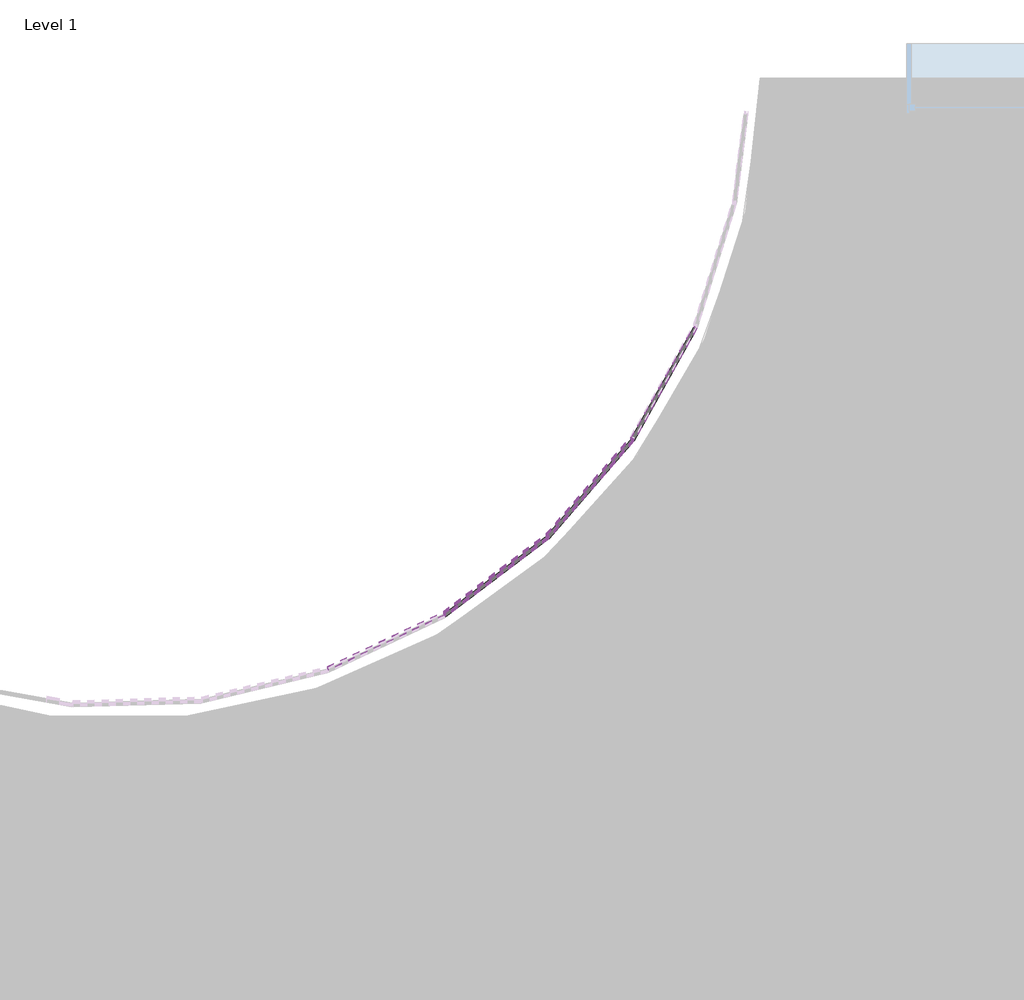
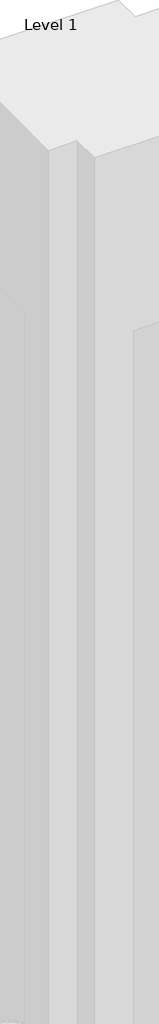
# One storey, part 19 of 20: 123 plates.
"""IFC4 building model written with IfcOpenShell, lengths in millimetres."""

from ifc_helpers import new_model, si_unit, origin, place, context, project, spatial, transform, mapped, element, save
from components import system_panel_glazed_d77d1ebf

model = new_model("IFC4")

# Units and contexts
model_context = context("Model", 3, world=origin())
ifc_project = project(units=[si_unit("LENGTHUNIT", "METRE", prefix="MILLI")], contexts=[model_context])

# Site, building, storey
site = spatial("IfcSite", under=ifc_project)
building = spatial("IfcBuilding", under=site)
storey = spatial("IfcBuildingStorey", under=building, Name="Level 1", Elevation=0.0)

# Plates
placement = place(None, origin())
system_panel_glazed_shape = system_panel_glazed_d77d1ebf(model_context)
element("IfcPlate", 1, ObjectType="System Panel : Glazed", at=placement, inside=storey, context=model_context, shape_type="MappedRepresentation", body=[
    mapped(system_panel_glazed_shape, transform((6187.9476398, 5523.679559, 0.0), x_axis=(0.7973536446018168, 0.6035123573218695, 0.0), y_axis=(-0.6035123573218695, 0.7973536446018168, 0.0), z_axis=(0.0, 0.0, 1.0))),
])
element("IfcPlate", 2, ObjectType="System Panel : Glazed", at=placement, inside=storey, context=model_context, shape_type="MappedRepresentation", body=[
    mapped(system_panel_glazed_shape, transform((6852.9242758, 6144.243956, 0.0), x_axis=(0.6571009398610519, 0.7538025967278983, 0.0), y_axis=(-0.7538025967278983, 0.6571009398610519, 0.0), z_axis=(0.0, 0.0, 1.0))),
])
element("IfcPlate", 3, ObjectType="System Panel : Glazed", at=placement, inside=storey, context=model_context, shape_type="MappedRepresentation", body=[
    mapped(system_panel_glazed_shape, transform((7376.9584203, 6887.6700201, 0.0), x_axis=(0.4890804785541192, 0.8722386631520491, 0.0), y_axis=(-0.8722386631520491, 0.4890804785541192, 0.0), z_axis=(0.0, 0.0, 1.0))),
])
element("IfcPlate", 4, ObjectType="System Panel : Glazed", at=placement, inside=storey, context=model_context, shape_type="MappedRepresentation", body=[
    mapped(system_panel_glazed_shape, transform((6187.9476398, 5523.679559, 3048.0), x_axis=(0.7973536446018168, 0.6035123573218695, 0.0), y_axis=(-0.6035123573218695, 0.7973536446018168, 0.0), z_axis=(0.0, 0.0, 1.0))),
])
element("IfcPlate", 5, ObjectType="System Panel : Glazed", at=placement, inside=storey, context=model_context, shape_type="MappedRepresentation", body=[
    mapped(system_panel_glazed_shape, transform((6852.9242758, 6144.243956, 3048.0), x_axis=(0.6571009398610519, 0.7538025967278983, 0.0), y_axis=(-0.7538025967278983, 0.6571009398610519, 0.0), z_axis=(0.0, 0.0, 1.0))),
])
element("IfcPlate", 6, ObjectType="System Panel : Glazed", at=placement, inside=storey, context=model_context, shape_type="MappedRepresentation", body=[
    mapped(system_panel_glazed_shape, transform((7376.9584203, 6887.6700201, 3048.0), x_axis=(0.4890804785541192, 0.8722386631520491, 0.0), y_axis=(-0.8722386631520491, 0.4890804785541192, 0.0), z_axis=(0.0, 0.0, 1.0))),
])
element("IfcPlate", 7, ObjectType="System Panel : Glazed", at=placement, inside=storey, context=model_context, shape_type="MappedRepresentation", body=[
    mapped(system_panel_glazed_shape, transform((6187.9476398, 5523.679559, 6096.0), x_axis=(0.7973536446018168, 0.6035123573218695, 0.0), y_axis=(-0.6035123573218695, 0.7973536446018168, 0.0), z_axis=(0.0, 0.0, 1.0))),
])
element("IfcPlate", 8, ObjectType="System Panel : Glazed", at=placement, inside=storey, context=model_context, shape_type="MappedRepresentation", body=[
    mapped(system_panel_glazed_shape, transform((6852.9242758, 6144.243956, 6096.0), x_axis=(0.6571009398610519, 0.7538025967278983, 0.0), y_axis=(-0.7538025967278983, 0.6571009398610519, 0.0), z_axis=(0.0, 0.0, 1.0))),
])
element("IfcPlate", 9, ObjectType="System Panel : Glazed", at=placement, inside=storey, context=model_context, shape_type="MappedRepresentation", body=[
    mapped(system_panel_glazed_shape, transform((7376.9584203, 6887.6700201, 6096.0), x_axis=(0.4890804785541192, 0.8722386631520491, 0.0), y_axis=(-0.8722386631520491, 0.4890804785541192, 0.0), z_axis=(0.0, 0.0, 1.0))),
])
element("IfcPlate", 10, ObjectType="System Panel : Glazed", at=placement, inside=storey, context=model_context, shape_type="MappedRepresentation", body=[
    mapped(system_panel_glazed_shape, transform((6187.9476398, 5523.679559, 9144.0), x_axis=(0.7973536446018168, 0.6035123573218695, 0.0), y_axis=(-0.6035123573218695, 0.7973536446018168, 0.0), z_axis=(0.0, 0.0, 1.0))),
])
element("IfcPlate", 11, ObjectType="System Panel : Glazed", at=placement, inside=storey, context=model_context, shape_type="MappedRepresentation", body=[
    mapped(system_panel_glazed_shape, transform((6852.9242758, 6144.243956, 9144.0), x_axis=(0.6571009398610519, 0.7538025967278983, 0.0), y_axis=(-0.7538025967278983, 0.6571009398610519, 0.0), z_axis=(0.0, 0.0, 1.0))),
])
element("IfcPlate", 12, ObjectType="System Panel : Glazed", at=placement, inside=storey, context=model_context, shape_type="MappedRepresentation", body=[
    mapped(system_panel_glazed_shape, transform((7376.9584203, 6887.6700201, 9144.0), x_axis=(0.4890804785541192, 0.8722386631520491, 0.0), y_axis=(-0.8722386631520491, 0.4890804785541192, 0.0), z_axis=(0.0, 0.0, 1.0))),
])
element("IfcPlate", 13, ObjectType="System Panel : Glazed", at=placement, inside=storey, context=model_context, shape_type="MappedRepresentation", body=[
    mapped(system_panel_glazed_shape, transform((6187.9476398, 5523.679559, 12192.0), x_axis=(0.7973536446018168, 0.6035123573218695, 0.0), y_axis=(-0.6035123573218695, 0.7973536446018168, 0.0), z_axis=(0.0, 0.0, 1.0))),
])
element("IfcPlate", 14, ObjectType="System Panel : Glazed", at=placement, inside=storey, context=model_context, shape_type="MappedRepresentation", body=[
    mapped(system_panel_glazed_shape, transform((6852.9242758, 6144.243956, 12192.0), x_axis=(0.6571009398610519, 0.7538025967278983, 0.0), y_axis=(-0.7538025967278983, 0.6571009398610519, 0.0), z_axis=(0.0, 0.0, 1.0))),
])
element("IfcPlate", 15, ObjectType="System Panel : Glazed", at=placement, inside=storey, context=model_context, shape_type="MappedRepresentation", body=[
    mapped(system_panel_glazed_shape, transform((7376.9584203, 6887.6700201, 12192.0), x_axis=(0.4890804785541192, 0.8722386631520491, 0.0), y_axis=(-0.8722386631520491, 0.4890804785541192, 0.0), z_axis=(0.0, 0.0, 1.0))),
])
element("IfcPlate", 16, ObjectType="System Panel : Glazed", at=placement, inside=storey, context=model_context, shape_type="MappedRepresentation", body=[
    mapped(system_panel_glazed_shape, transform((6187.9476398, 5523.679559, 15240.0), x_axis=(0.7973536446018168, 0.6035123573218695, 0.0), y_axis=(-0.6035123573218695, 0.7973536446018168, 0.0), z_axis=(0.0, 0.0, 1.0))),
])
element("IfcPlate", 17, ObjectType="System Panel : Glazed", at=placement, inside=storey, context=model_context, shape_type="MappedRepresentation", body=[
    mapped(system_panel_glazed_shape, transform((6852.9242758, 6144.243956, 15240.0), x_axis=(0.6571009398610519, 0.7538025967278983, 0.0), y_axis=(-0.7538025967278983, 0.6571009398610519, 0.0), z_axis=(0.0, 0.0, 1.0))),
])
element("IfcPlate", 18, ObjectType="System Panel : Glazed", at=placement, inside=storey, context=model_context, shape_type="MappedRepresentation", body=[
    mapped(system_panel_glazed_shape, transform((7376.9584203, 6887.6700201, 15240.0), x_axis=(0.4890804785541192, 0.8722386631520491, 0.0), y_axis=(-0.8722386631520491, 0.4890804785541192, 0.0), z_axis=(0.0, 0.0, 1.0))),
])
element("IfcPlate", 19, ObjectType="System Panel : Glazed", at=placement, inside=storey, context=model_context, shape_type="MappedRepresentation", body=[
    mapped(system_panel_glazed_shape, transform((6187.9476398, 5523.679559, 18288.0), x_axis=(0.7973536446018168, 0.6035123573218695, 0.0), y_axis=(-0.6035123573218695, 0.7973536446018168, 0.0), z_axis=(0.0, 0.0, 1.0))),
])
element("IfcPlate", 20, ObjectType="System Panel : Glazed", at=placement, inside=storey, context=model_context, shape_type="MappedRepresentation", body=[
    mapped(system_panel_glazed_shape, transform((6852.9242758, 6144.243956, 18288.0), x_axis=(0.6571009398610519, 0.7538025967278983, 0.0), y_axis=(-0.7538025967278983, 0.6571009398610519, 0.0), z_axis=(0.0, 0.0, 1.0))),
])
element("IfcPlate", 21, ObjectType="System Panel : Glazed", at=placement, inside=storey, context=model_context, shape_type="MappedRepresentation", body=[
    mapped(system_panel_glazed_shape, transform((7376.9584203, 6887.6700201, 18288.0), x_axis=(0.48908047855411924, 0.8722386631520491, 0.0), y_axis=(-0.8722386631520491, 0.48908047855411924, 0.0), z_axis=(0.0, 0.0, 1.0))),
])
element("IfcPlate", 22, ObjectType="System Panel : Glazed", at=placement, inside=storey, context=model_context, shape_type="MappedRepresentation", body=[
    mapped(system_panel_glazed_shape, transform((6187.9476398, 5523.679559, 21336.0), x_axis=(0.7973536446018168, 0.6035123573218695, 0.0), y_axis=(-0.6035123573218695, 0.7973536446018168, 0.0), z_axis=(0.0, 0.0, 1.0))),
])
element("IfcPlate", 23, ObjectType="System Panel : Glazed", at=placement, inside=storey, context=model_context, shape_type="MappedRepresentation", body=[
    mapped(system_panel_glazed_shape, transform((6852.9242758, 6144.243956, 21336.0), x_axis=(0.6571009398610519, 0.7538025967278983, 0.0), y_axis=(-0.7538025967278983, 0.6571009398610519, 0.0), z_axis=(0.0, 0.0, 1.0))),
])
element("IfcPlate", 24, ObjectType="System Panel : Glazed", at=placement, inside=storey, context=model_context, shape_type="MappedRepresentation", body=[
    mapped(system_panel_glazed_shape, transform((7376.9584203, 6887.6700201, 21336.0), x_axis=(0.4890804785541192, 0.8722386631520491, 0.0), y_axis=(-0.8722386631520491, 0.4890804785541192, 0.0), z_axis=(0.0, 0.0, 1.0))),
])
element("IfcPlate", 25, ObjectType="System Panel : Glazed", at=placement, inside=storey, context=model_context, shape_type="MappedRepresentation", body=[
    mapped(system_panel_glazed_shape, transform((6187.9476398, 5523.679559, 24384.0), x_axis=(0.7973536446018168, 0.6035123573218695, 0.0), y_axis=(-0.6035123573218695, 0.7973536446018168, 0.0), z_axis=(0.0, 0.0, 1.0))),
])
element("IfcPlate", 26, ObjectType="System Panel : Glazed", at=placement, inside=storey, context=model_context, shape_type="MappedRepresentation", body=[
    mapped(system_panel_glazed_shape, transform((6852.9242758, 6144.243956, 24384.0), x_axis=(0.6571009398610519, 0.7538025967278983, 0.0), y_axis=(-0.7538025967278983, 0.6571009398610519, 0.0), z_axis=(0.0, 0.0, 1.0))),
])
element("IfcPlate", 27, ObjectType="System Panel : Glazed", at=placement, inside=storey, context=model_context, shape_type="MappedRepresentation", body=[
    mapped(system_panel_glazed_shape, transform((7376.9584203, 6887.6700201, 24384.0), x_axis=(0.4890804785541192, 0.8722386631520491, 0.0), y_axis=(-0.8722386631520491, 0.4890804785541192, 0.0), z_axis=(0.0, 0.0, 1.0))),
])
element("IfcPlate", 28, ObjectType="System Panel : Glazed", at=placement, inside=storey, context=model_context, shape_type="MappedRepresentation", body=[
    mapped(system_panel_glazed_shape, transform((6187.9476398, 5523.679559, 27432.0), x_axis=(0.7973536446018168, 0.6035123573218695, 0.0), y_axis=(-0.6035123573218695, 0.7973536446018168, 0.0), z_axis=(0.0, 0.0, 1.0))),
])
element("IfcPlate", 29, ObjectType="System Panel : Glazed", at=placement, inside=storey, context=model_context, shape_type="MappedRepresentation", body=[
    mapped(system_panel_glazed_shape, transform((6852.9242758, 6144.243956, 27432.0), x_axis=(0.6571009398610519, 0.7538025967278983, 0.0), y_axis=(-0.7538025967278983, 0.6571009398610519, 0.0), z_axis=(0.0, 0.0, 1.0))),
])
element("IfcPlate", 30, ObjectType="System Panel : Glazed", at=placement, inside=storey, context=model_context, shape_type="MappedRepresentation", body=[
    mapped(system_panel_glazed_shape, transform((7376.9584203, 6887.6700201, 27432.0), x_axis=(0.4890804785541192, 0.8722386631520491, 0.0), y_axis=(-0.8722386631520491, 0.4890804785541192, 0.0), z_axis=(0.0, 0.0, 1.0))),
])
element("IfcPlate", 31, ObjectType="System Panel : Glazed", at=placement, inside=storey, context=model_context, shape_type="MappedRepresentation", body=[
    mapped(system_panel_glazed_shape, transform((6187.9476398, 5523.679559, 30480.0), x_axis=(0.7973536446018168, 0.6035123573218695, 0.0), y_axis=(-0.6035123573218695, 0.7973536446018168, 0.0), z_axis=(0.0, 0.0, 1.0))),
])
element("IfcPlate", 32, ObjectType="System Panel : Glazed", at=placement, inside=storey, context=model_context, shape_type="MappedRepresentation", body=[
    mapped(system_panel_glazed_shape, transform((6852.9242758, 6144.243956, 30480.0), x_axis=(0.6571009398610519, 0.7538025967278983, 0.0), y_axis=(-0.7538025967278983, 0.6571009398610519, 0.0), z_axis=(0.0, 0.0, 1.0))),
])
element("IfcPlate", 33, ObjectType="System Panel : Glazed", at=placement, inside=storey, context=model_context, shape_type="MappedRepresentation", body=[
    mapped(system_panel_glazed_shape, transform((7376.9584203, 6887.6700201, 30480.0), x_axis=(0.4890804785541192, 0.8722386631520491, 0.0), y_axis=(-0.8722386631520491, 0.4890804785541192, 0.0), z_axis=(0.0, 0.0, 1.0))),
])
element("IfcPlate", 34, ObjectType="System Panel : Glazed", at=placement, inside=storey, context=model_context, shape_type="MappedRepresentation", body=[
    mapped(system_panel_glazed_shape, transform((6187.9476398, 5523.679559, 33528.0), x_axis=(0.7973536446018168, 0.6035123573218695, 0.0), y_axis=(-0.6035123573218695, 0.7973536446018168, 0.0), z_axis=(0.0, 0.0, 1.0))),
])
element("IfcPlate", 35, ObjectType="System Panel : Glazed", at=placement, inside=storey, context=model_context, shape_type="MappedRepresentation", body=[
    mapped(system_panel_glazed_shape, transform((6852.9242758, 6144.243956, 33528.0), x_axis=(0.6571009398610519, 0.7538025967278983, 0.0), y_axis=(-0.7538025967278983, 0.6571009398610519, 0.0), z_axis=(0.0, 0.0, 1.0))),
])
element("IfcPlate", 36, ObjectType="System Panel : Glazed", at=placement, inside=storey, context=model_context, shape_type="MappedRepresentation", body=[
    mapped(system_panel_glazed_shape, transform((7376.9584203, 6887.6700201, 33528.0), x_axis=(0.4890804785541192, 0.8722386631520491, 0.0), y_axis=(-0.8722386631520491, 0.4890804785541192, 0.0), z_axis=(0.0, 0.0, 1.0))),
])
element("IfcPlate", 37, ObjectType="System Panel : Glazed", at=placement, inside=storey, context=model_context, shape_type="MappedRepresentation", body=[
    mapped(system_panel_glazed_shape, transform((6187.9476398, 5523.679559, 36576.0), x_axis=(0.7973536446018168, 0.6035123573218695, 0.0), y_axis=(-0.6035123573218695, 0.7973536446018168, 0.0), z_axis=(0.0, 0.0, 1.0))),
])
element("IfcPlate", 38, ObjectType="System Panel : Glazed", at=placement, inside=storey, context=model_context, shape_type="MappedRepresentation", body=[
    mapped(system_panel_glazed_shape, transform((6852.9242758, 6144.243956, 36576.0), x_axis=(0.6571009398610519, 0.7538025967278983, 0.0), y_axis=(-0.7538025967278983, 0.6571009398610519, 0.0), z_axis=(0.0, 0.0, 1.0))),
])
element("IfcPlate", 39, ObjectType="System Panel : Glazed", at=placement, inside=storey, context=model_context, shape_type="MappedRepresentation", body=[
    mapped(system_panel_glazed_shape, transform((7376.9584203, 6887.6700201, 36576.0), x_axis=(0.4890804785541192, 0.8722386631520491, 0.0), y_axis=(-0.8722386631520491, 0.4890804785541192, 0.0), z_axis=(0.0, 0.0, 1.0))),
])
element("IfcPlate", 40, ObjectType="System Panel : Glazed", at=placement, inside=storey, context=model_context, shape_type="MappedRepresentation", body=[
    mapped(system_panel_glazed_shape, transform((6187.9476398, 5523.679559, 39624.0), x_axis=(0.7973536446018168, 0.6035123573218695, 0.0), y_axis=(-0.6035123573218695, 0.7973536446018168, 0.0), z_axis=(0.0, 0.0, 1.0))),
])
element("IfcPlate", 41, ObjectType="System Panel : Glazed", at=placement, inside=storey, context=model_context, shape_type="MappedRepresentation", body=[
    mapped(system_panel_glazed_shape, transform((6852.9242758, 6144.243956, 39624.0), x_axis=(0.6571009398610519, 0.7538025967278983, 0.0), y_axis=(-0.7538025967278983, 0.6571009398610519, 0.0), z_axis=(0.0, 0.0, 1.0))),
])
element("IfcPlate", 42, ObjectType="System Panel : Glazed", at=placement, inside=storey, context=model_context, shape_type="MappedRepresentation", body=[
    mapped(system_panel_glazed_shape, transform((7376.9584203, 6887.6700201, 39624.0), x_axis=(0.4890804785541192, 0.8722386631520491, 0.0), y_axis=(-0.8722386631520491, 0.4890804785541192, 0.0), z_axis=(0.0, 0.0, 1.0))),
])
element("IfcPlate", 43, ObjectType="System Panel : Glazed", at=placement, inside=storey, context=model_context, shape_type="MappedRepresentation", body=[
    mapped(system_panel_glazed_shape, transform((6187.9476398, 5523.679559, 42672.0), x_axis=(0.7973536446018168, 0.6035123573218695, 0.0), y_axis=(-0.6035123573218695, 0.7973536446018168, 0.0), z_axis=(0.0, 0.0, 1.0))),
])
element("IfcPlate", 44, ObjectType="System Panel : Glazed", at=placement, inside=storey, context=model_context, shape_type="MappedRepresentation", body=[
    mapped(system_panel_glazed_shape, transform((6852.9242758, 6144.243956, 42672.0), x_axis=(0.6571009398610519, 0.7538025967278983, 0.0), y_axis=(-0.7538025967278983, 0.6571009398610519, 0.0), z_axis=(0.0, 0.0, 1.0))),
])
element("IfcPlate", 45, ObjectType="System Panel : Glazed", at=placement, inside=storey, context=model_context, shape_type="MappedRepresentation", body=[
    mapped(system_panel_glazed_shape, transform((7376.9584203, 6887.6700201, 42672.0), x_axis=(0.4890804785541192, 0.8722386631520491, 0.0), y_axis=(-0.8722386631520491, 0.4890804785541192, 0.0), z_axis=(0.0, 0.0, 1.0))),
])
element("IfcPlate", 46, ObjectType="System Panel : Glazed", at=placement, inside=storey, context=model_context, shape_type="MappedRepresentation", body=[
    mapped(system_panel_glazed_shape, transform((6187.9476398, 5523.679559, 45720.0), x_axis=(0.7973536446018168, 0.6035123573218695, 0.0), y_axis=(-0.6035123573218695, 0.7973536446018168, 0.0), z_axis=(0.0, 0.0, 1.0))),
])
element("IfcPlate", 47, ObjectType="System Panel : Glazed", at=placement, inside=storey, context=model_context, shape_type="MappedRepresentation", body=[
    mapped(system_panel_glazed_shape, transform((6852.9242758, 6144.243956, 45720.0), x_axis=(0.6571009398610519, 0.7538025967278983, 0.0), y_axis=(-0.7538025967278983, 0.6571009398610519, 0.0), z_axis=(0.0, 0.0, 1.0))),
])
element("IfcPlate", 48, ObjectType="System Panel : Glazed", at=placement, inside=storey, context=model_context, shape_type="MappedRepresentation", body=[
    mapped(system_panel_glazed_shape, transform((7376.9584203, 6887.6700201, 45720.0), x_axis=(0.4890804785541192, 0.8722386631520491, 0.0), y_axis=(-0.8722386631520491, 0.4890804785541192, 0.0), z_axis=(0.0, 0.0, 1.0))),
])
element("IfcPlate", 49, ObjectType="System Panel : Glazed", at=placement, inside=storey, context=model_context, shape_type="MappedRepresentation", body=[
    mapped(system_panel_glazed_shape, transform((6187.9476398, 5523.679559, 48768.0), x_axis=(0.7973536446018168, 0.6035123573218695, 0.0), y_axis=(-0.6035123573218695, 0.7973536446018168, 0.0), z_axis=(0.0, 0.0, 1.0))),
])
element("IfcPlate", 50, ObjectType="System Panel : Glazed", at=placement, inside=storey, context=model_context, shape_type="MappedRepresentation", body=[
    mapped(system_panel_glazed_shape, transform((6852.9242758, 6144.243956, 48768.0), x_axis=(0.6571009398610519, 0.7538025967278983, 0.0), y_axis=(-0.7538025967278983, 0.6571009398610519, 0.0), z_axis=(0.0, 0.0, 1.0))),
])
element("IfcPlate", 51, ObjectType="System Panel : Glazed", at=placement, inside=storey, context=model_context, shape_type="MappedRepresentation", body=[
    mapped(system_panel_glazed_shape, transform((7376.9584203, 6887.6700201, 48768.0), x_axis=(0.4890804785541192, 0.8722386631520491, 0.0), y_axis=(-0.8722386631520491, 0.4890804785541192, 0.0), z_axis=(0.0, 0.0, 1.0))),
])
element("IfcPlate", 52, ObjectType="System Panel : Glazed", at=placement, inside=storey, context=model_context, shape_type="MappedRepresentation", body=[
    mapped(system_panel_glazed_shape, transform((6187.9476398, 5523.679559, 51816.0), x_axis=(0.7973536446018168, 0.6035123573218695, 0.0), y_axis=(-0.6035123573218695, 0.7973536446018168, 0.0), z_axis=(0.0, 0.0, 1.0))),
])
element("IfcPlate", 53, ObjectType="System Panel : Glazed", at=placement, inside=storey, context=model_context, shape_type="MappedRepresentation", body=[
    mapped(system_panel_glazed_shape, transform((6852.9242758, 6144.243956, 51816.0), x_axis=(0.6571009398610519, 0.7538025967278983, 0.0), y_axis=(-0.7538025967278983, 0.6571009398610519, 0.0), z_axis=(0.0, 0.0, 1.0))),
])
element("IfcPlate", 54, ObjectType="System Panel : Glazed", at=placement, inside=storey, context=model_context, shape_type="MappedRepresentation", body=[
    mapped(system_panel_glazed_shape, transform((7376.9584203, 6887.6700201, 51816.0), x_axis=(0.4890804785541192, 0.8722386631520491, 0.0), y_axis=(-0.8722386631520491, 0.4890804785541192, 0.0), z_axis=(0.0, 0.0, 1.0))),
])
element("IfcPlate", 55, ObjectType="System Panel : Glazed", at=placement, inside=storey, context=model_context, shape_type="MappedRepresentation", body=[
    mapped(system_panel_glazed_shape, transform((6187.9476398, 5523.679559, 54864.0), x_axis=(0.7973536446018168, 0.6035123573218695, 0.0), y_axis=(-0.6035123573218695, 0.7973536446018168, 0.0), z_axis=(0.0, 0.0, 1.0))),
])
element("IfcPlate", 56, ObjectType="System Panel : Glazed", at=placement, inside=storey, context=model_context, shape_type="MappedRepresentation", body=[
    mapped(system_panel_glazed_shape, transform((6852.9242758, 6144.243956, 54864.0), x_axis=(0.6571009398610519, 0.7538025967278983, 0.0), y_axis=(-0.7538025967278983, 0.6571009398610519, 0.0), z_axis=(0.0, 0.0, 1.0))),
])
element("IfcPlate", 57, ObjectType="System Panel : Glazed", at=placement, inside=storey, context=model_context, shape_type="MappedRepresentation", body=[
    mapped(system_panel_glazed_shape, transform((7376.9584203, 6887.6700201, 54864.0), x_axis=(0.4890804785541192, 0.8722386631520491, 0.0), y_axis=(-0.8722386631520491, 0.4890804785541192, 0.0), z_axis=(0.0, 0.0, 1.0))),
])
element("IfcPlate", 58, ObjectType="System Panel : Glazed", at=placement, inside=storey, context=model_context, shape_type="MappedRepresentation", body=[
    mapped(system_panel_glazed_shape, transform((6187.9476398, 5523.679559, 57912.0), x_axis=(0.7973536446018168, 0.6035123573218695, 0.0), y_axis=(-0.6035123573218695, 0.7973536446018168, 0.0), z_axis=(0.0, 0.0, 1.0))),
])
element("IfcPlate", 59, ObjectType="System Panel : Glazed", at=placement, inside=storey, context=model_context, shape_type="MappedRepresentation", body=[
    mapped(system_panel_glazed_shape, transform((6852.9242758, 6144.243956, 57912.0), x_axis=(0.6571009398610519, 0.7538025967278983, 0.0), y_axis=(-0.7538025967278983, 0.6571009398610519, 0.0), z_axis=(0.0, 0.0, 1.0))),
])
element("IfcPlate", 60, ObjectType="System Panel : Glazed", at=placement, inside=storey, context=model_context, shape_type="MappedRepresentation", body=[
    mapped(system_panel_glazed_shape, transform((7376.9584203, 6887.6700201, 57912.0), x_axis=(0.4890804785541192, 0.8722386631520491, 0.0), y_axis=(-0.8722386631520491, 0.4890804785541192, 0.0), z_axis=(0.0, 0.0, 1.0))),
])
element("IfcPlate", 61, ObjectType="System Panel : Glazed", at=placement, inside=storey, context=model_context, shape_type="MappedRepresentation", body=[
    mapped(system_panel_glazed_shape, transform((6187.9476398, 5523.679559, 60960.0), x_axis=(0.7973536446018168, 0.6035123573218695, 0.0), y_axis=(-0.6035123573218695, 0.7973536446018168, 0.0), z_axis=(0.0, 0.0, 1.0))),
])
element("IfcPlate", 62, ObjectType="System Panel : Glazed", at=placement, inside=storey, context=model_context, shape_type="MappedRepresentation", body=[
    mapped(system_panel_glazed_shape, transform((6852.9242758, 6144.243956, 60960.0), x_axis=(0.6571009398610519, 0.7538025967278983, 0.0), y_axis=(-0.7538025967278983, 0.6571009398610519, 0.0), z_axis=(0.0, 0.0, 1.0))),
])
element("IfcPlate", 63, ObjectType="System Panel : Glazed", at=placement, inside=storey, context=model_context, shape_type="MappedRepresentation", body=[
    mapped(system_panel_glazed_shape, transform((7376.9584203, 6887.6700201, 60960.0), x_axis=(0.4890804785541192, 0.8722386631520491, 0.0), y_axis=(-0.8722386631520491, 0.4890804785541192, 0.0), z_axis=(0.0, 0.0, 1.0))),
])
element("IfcPlate", 64, ObjectType="System Panel : Glazed", at=placement, inside=storey, context=model_context, shape_type="MappedRepresentation", body=[
    mapped(system_panel_glazed_shape, transform((6187.9476398, 5523.679559, 64008.0), x_axis=(0.7973536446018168, 0.6035123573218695, 0.0), y_axis=(-0.6035123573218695, 0.7973536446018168, 0.0), z_axis=(0.0, 0.0, 1.0))),
])
element("IfcPlate", 65, ObjectType="System Panel : Glazed", at=placement, inside=storey, context=model_context, shape_type="MappedRepresentation", body=[
    mapped(system_panel_glazed_shape, transform((6852.9242758, 6144.243956, 64008.0), x_axis=(0.6571009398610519, 0.7538025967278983, 0.0), y_axis=(-0.7538025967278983, 0.6571009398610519, 0.0), z_axis=(0.0, 0.0, 1.0))),
])
element("IfcPlate", 66, ObjectType="System Panel : Glazed", at=placement, inside=storey, context=model_context, shape_type="MappedRepresentation", body=[
    mapped(system_panel_glazed_shape, transform((7376.9584203, 6887.6700201, 64008.0), x_axis=(0.4890804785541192, 0.8722386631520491, 0.0), y_axis=(-0.8722386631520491, 0.4890804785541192, 0.0), z_axis=(0.0, 0.0, 1.0))),
])
element("IfcPlate", 67, ObjectType="System Panel : Glazed", at=placement, inside=storey, context=model_context, shape_type="MappedRepresentation", body=[
    mapped(system_panel_glazed_shape, transform((6187.9476398, 5523.679559, 67056.0), x_axis=(0.7973536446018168, 0.6035123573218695, 0.0), y_axis=(-0.6035123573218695, 0.7973536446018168, 0.0), z_axis=(0.0, 0.0, 1.0))),
])
element("IfcPlate", 68, ObjectType="System Panel : Glazed", at=placement, inside=storey, context=model_context, shape_type="MappedRepresentation", body=[
    mapped(system_panel_glazed_shape, transform((6852.9242758, 6144.243956, 67056.0), x_axis=(0.6571009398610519, 0.7538025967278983, 0.0), y_axis=(-0.7538025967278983, 0.6571009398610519, 0.0), z_axis=(0.0, 0.0, 1.0))),
])
element("IfcPlate", 69, ObjectType="System Panel : Glazed", at=placement, inside=storey, context=model_context, shape_type="MappedRepresentation", body=[
    mapped(system_panel_glazed_shape, transform((7376.9584203, 6887.6700201, 67056.0), x_axis=(0.4890804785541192, 0.8722386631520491, 0.0), y_axis=(-0.8722386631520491, 0.4890804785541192, 0.0), z_axis=(0.0, 0.0, 1.0))),
])
element("IfcPlate", 70, ObjectType="System Panel : Glazed", at=placement, inside=storey, context=model_context, shape_type="MappedRepresentation", body=[
    mapped(system_panel_glazed_shape, transform((6187.9476398, 5523.679559, 70104.0), x_axis=(0.7973536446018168, 0.6035123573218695, 0.0), y_axis=(-0.6035123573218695, 0.7973536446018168, 0.0), z_axis=(0.0, 0.0, 1.0))),
])
element("IfcPlate", 71, ObjectType="System Panel : Glazed", at=placement, inside=storey, context=model_context, shape_type="MappedRepresentation", body=[
    mapped(system_panel_glazed_shape, transform((6852.9242758, 6144.243956, 70104.0), x_axis=(0.6571009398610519, 0.7538025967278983, 0.0), y_axis=(-0.7538025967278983, 0.6571009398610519, 0.0), z_axis=(0.0, 0.0, 1.0))),
])
element("IfcPlate", 72, ObjectType="System Panel : Glazed", at=placement, inside=storey, context=model_context, shape_type="MappedRepresentation", body=[
    mapped(system_panel_glazed_shape, transform((7376.9584203, 6887.6700201, 70104.0), x_axis=(0.4890804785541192, 0.8722386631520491, 0.0), y_axis=(-0.8722386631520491, 0.4890804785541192, 0.0), z_axis=(0.0, 0.0, 1.0))),
])
element("IfcPlate", 73, ObjectType="System Panel : Glazed", at=placement, inside=storey, context=model_context, shape_type="MappedRepresentation", body=[
    mapped(system_panel_glazed_shape, transform((6187.9476398, 5523.679559, 73152.0), x_axis=(0.7973536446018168, 0.6035123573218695, 0.0), y_axis=(-0.6035123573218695, 0.7973536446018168, 0.0), z_axis=(0.0, 0.0, 1.0))),
])
element("IfcPlate", 74, ObjectType="System Panel : Glazed", at=placement, inside=storey, context=model_context, shape_type="MappedRepresentation", body=[
    mapped(system_panel_glazed_shape, transform((6852.9242758, 6144.243956, 73152.0), x_axis=(0.6571009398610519, 0.7538025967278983, 0.0), y_axis=(-0.7538025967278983, 0.6571009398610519, 0.0), z_axis=(0.0, 0.0, 1.0))),
])
element("IfcPlate", 75, ObjectType="System Panel : Glazed", at=placement, inside=storey, context=model_context, shape_type="MappedRepresentation", body=[
    mapped(system_panel_glazed_shape, transform((7376.9584203, 6887.6700201, 73152.0), x_axis=(0.4890804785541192, 0.8722386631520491, 0.0), y_axis=(-0.8722386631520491, 0.4890804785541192, 0.0), z_axis=(0.0, 0.0, 1.0))),
])
element("IfcPlate", 76, ObjectType="System Panel : Glazed", at=placement, inside=storey, context=model_context, shape_type="MappedRepresentation", body=[
    mapped(system_panel_glazed_shape, transform((6187.9476398, 5523.679559, 76200.0), x_axis=(0.7973536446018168, 0.6035123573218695, 0.0), y_axis=(-0.6035123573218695, 0.7973536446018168, 0.0), z_axis=(0.0, 0.0, 1.0))),
])
element("IfcPlate", 77, ObjectType="System Panel : Glazed", at=placement, inside=storey, context=model_context, shape_type="MappedRepresentation", body=[
    mapped(system_panel_glazed_shape, transform((6852.9242758, 6144.243956, 76200.0), x_axis=(0.6571009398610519, 0.7538025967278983, 0.0), y_axis=(-0.7538025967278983, 0.6571009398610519, 0.0), z_axis=(0.0, 0.0, 1.0))),
])
element("IfcPlate", 78, ObjectType="System Panel : Glazed", at=placement, inside=storey, context=model_context, shape_type="MappedRepresentation", body=[
    mapped(system_panel_glazed_shape, transform((7376.9584203, 6887.6700201, 76200.0), x_axis=(0.4890804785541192, 0.8722386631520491, 0.0), y_axis=(-0.8722386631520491, 0.4890804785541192, 0.0), z_axis=(0.0, 0.0, 1.0))),
])
element("IfcPlate", 79, ObjectType="System Panel : Glazed", at=placement, inside=storey, context=model_context, shape_type="MappedRepresentation", body=[
    mapped(system_panel_glazed_shape, transform((6187.9476398, 5523.679559, 79248.0), x_axis=(0.7973536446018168, 0.6035123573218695, 0.0), y_axis=(-0.6035123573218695, 0.7973536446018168, 0.0), z_axis=(0.0, 0.0, 1.0))),
])
element("IfcPlate", 80, ObjectType="System Panel : Glazed", at=placement, inside=storey, context=model_context, shape_type="MappedRepresentation", body=[
    mapped(system_panel_glazed_shape, transform((6852.9242758, 6144.243956, 79248.0), x_axis=(0.6571009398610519, 0.7538025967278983, 0.0), y_axis=(-0.7538025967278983, 0.6571009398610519, 0.0), z_axis=(0.0, 0.0, 1.0))),
])
element("IfcPlate", 81, ObjectType="System Panel : Glazed", at=placement, inside=storey, context=model_context, shape_type="MappedRepresentation", body=[
    mapped(system_panel_glazed_shape, transform((7376.9584203, 6887.6700201, 79248.0), x_axis=(0.4890804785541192, 0.8722386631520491, 0.0), y_axis=(-0.8722386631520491, 0.4890804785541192, 0.0), z_axis=(0.0, 0.0, 1.0))),
])
element("IfcPlate", 82, ObjectType="System Panel : Glazed", at=placement, inside=storey, context=model_context, shape_type="MappedRepresentation", body=[
    mapped(system_panel_glazed_shape, transform((6187.9476398, 5523.679559, 82296.0), x_axis=(0.7973536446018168, 0.6035123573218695, 0.0), y_axis=(-0.6035123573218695, 0.7973536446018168, 0.0), z_axis=(0.0, 0.0, 1.0))),
])
element("IfcPlate", 83, ObjectType="System Panel : Glazed", at=placement, inside=storey, context=model_context, shape_type="MappedRepresentation", body=[
    mapped(system_panel_glazed_shape, transform((6852.9242758, 6144.243956, 82296.0), x_axis=(0.6571009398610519, 0.7538025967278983, 0.0), y_axis=(-0.7538025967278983, 0.6571009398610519, 0.0), z_axis=(0.0, 0.0, 1.0))),
])
element("IfcPlate", 84, ObjectType="System Panel : Glazed", at=placement, inside=storey, context=model_context, shape_type="MappedRepresentation", body=[
    mapped(system_panel_glazed_shape, transform((7376.9584203, 6887.6700201, 82296.0), x_axis=(0.4890804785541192, 0.8722386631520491, 0.0), y_axis=(-0.8722386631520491, 0.4890804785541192, 0.0), z_axis=(0.0, 0.0, 1.0))),
])
element("IfcPlate", 85, ObjectType="System Panel : Glazed", at=placement, inside=storey, context=model_context, shape_type="MappedRepresentation", body=[
    mapped(system_panel_glazed_shape, transform((6187.9476398, 5523.679559, 85344.0), x_axis=(0.7973536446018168, 0.6035123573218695, 0.0), y_axis=(-0.6035123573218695, 0.7973536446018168, 0.0), z_axis=(0.0, 0.0, 1.0))),
])
element("IfcPlate", 86, ObjectType="System Panel : Glazed", at=placement, inside=storey, context=model_context, shape_type="MappedRepresentation", body=[
    mapped(system_panel_glazed_shape, transform((6852.9242758, 6144.243956, 85344.0), x_axis=(0.6571009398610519, 0.7538025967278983, 0.0), y_axis=(-0.7538025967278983, 0.6571009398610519, 0.0), z_axis=(0.0, 0.0, 1.0))),
])
element("IfcPlate", 87, ObjectType="System Panel : Glazed", at=placement, inside=storey, context=model_context, shape_type="MappedRepresentation", body=[
    mapped(system_panel_glazed_shape, transform((7376.9584203, 6887.6700201, 85344.0), x_axis=(0.4890804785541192, 0.8722386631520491, 0.0), y_axis=(-0.8722386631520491, 0.4890804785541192, 0.0), z_axis=(0.0, 0.0, 1.0))),
])
element("IfcPlate", 88, ObjectType="System Panel : Glazed", at=placement, inside=storey, context=model_context, shape_type="MappedRepresentation", body=[
    mapped(system_panel_glazed_shape, transform((6187.9476398, 5523.679559, 88392.0), x_axis=(0.7973536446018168, 0.6035123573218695, 0.0), y_axis=(-0.6035123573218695, 0.7973536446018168, 0.0), z_axis=(0.0, 0.0, 1.0))),
])
element("IfcPlate", 89, ObjectType="System Panel : Glazed", at=placement, inside=storey, context=model_context, shape_type="MappedRepresentation", body=[
    mapped(system_panel_glazed_shape, transform((6852.9242758, 6144.243956, 88392.0), x_axis=(0.6571009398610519, 0.7538025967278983, 0.0), y_axis=(-0.7538025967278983, 0.6571009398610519, 0.0), z_axis=(0.0, 0.0, 1.0))),
])
element("IfcPlate", 90, ObjectType="System Panel : Glazed", at=placement, inside=storey, context=model_context, shape_type="MappedRepresentation", body=[
    mapped(system_panel_glazed_shape, transform((7376.9584203, 6887.6700201, 88392.0), x_axis=(0.4890804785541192, 0.8722386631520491, 0.0), y_axis=(-0.8722386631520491, 0.4890804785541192, 0.0), z_axis=(0.0, 0.0, 1.0))),
])
element("IfcPlate", 91, ObjectType="System Panel : Glazed", at=placement, inside=storey, context=model_context, shape_type="MappedRepresentation", body=[
    mapped(system_panel_glazed_shape, transform((5410.1290798, 5052.2006253, 91440.0), x_axis=(0.9039117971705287, 0.42771890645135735, 0.0), y_axis=(-0.42771890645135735, 0.9039117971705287, 0.0), z_axis=(0.0, 0.0, 1.0))),
])
element("IfcPlate", 92, ObjectType="System Panel : Glazed", at=placement, inside=storey, context=model_context, shape_type="MappedRepresentation", body=[
    mapped(system_panel_glazed_shape, transform((6187.9476398, 5523.679559, 91440.0), x_axis=(0.7973536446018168, 0.6035123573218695, 0.0), y_axis=(-0.6035123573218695, 0.7973536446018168, 0.0), z_axis=(0.0, 0.0, 1.0))),
])
element("IfcPlate", 93, ObjectType="System Panel : Glazed", at=placement, inside=storey, context=model_context, shape_type="MappedRepresentation", body=[
    mapped(system_panel_glazed_shape, transform((6852.9242758, 6144.243956, 91440.0), x_axis=(0.6571009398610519, 0.7538025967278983, 0.0), y_axis=(-0.7538025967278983, 0.6571009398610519, 0.0), z_axis=(0.0, 0.0, 1.0))),
])
element("IfcPlate", 94, ObjectType="System Panel : Glazed", at=placement, inside=storey, context=model_context, shape_type="MappedRepresentation", body=[
    mapped(system_panel_glazed_shape, transform((7376.9584203, 6887.6700201, 91440.0), x_axis=(0.4890804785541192, 0.8722386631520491, 0.0), y_axis=(-0.8722386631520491, 0.4890804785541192, 0.0), z_axis=(0.0, 0.0, 1.0))),
])
element("IfcPlate", 95, ObjectType="System Panel : Glazed", at=placement, inside=storey, context=model_context, shape_type="MappedRepresentation", body=[
    mapped(system_panel_glazed_shape, transform((5410.1290798, 5052.2006253, 94488.0), x_axis=(0.9039117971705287, 0.42771890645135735, 0.0), y_axis=(-0.42771890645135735, 0.9039117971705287, 0.0), z_axis=(0.0, 0.0, 1.0))),
])
element("IfcPlate", 96, ObjectType="System Panel : Glazed", at=placement, inside=storey, context=model_context, shape_type="MappedRepresentation", body=[
    mapped(system_panel_glazed_shape, transform((6187.9476398, 5523.679559, 94488.0), x_axis=(0.7973536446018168, 0.6035123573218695, 0.0), y_axis=(-0.6035123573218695, 0.7973536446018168, 0.0), z_axis=(0.0, 0.0, 1.0))),
])
element("IfcPlate", 97, ObjectType="System Panel : Glazed", at=placement, inside=storey, context=model_context, shape_type="MappedRepresentation", body=[
    mapped(system_panel_glazed_shape, transform((6852.9242758, 6144.243956, 94488.0), x_axis=(0.6571009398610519, 0.7538025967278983, 0.0), y_axis=(-0.7538025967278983, 0.6571009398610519, 0.0), z_axis=(0.0, 0.0, 1.0))),
])
element("IfcPlate", 98, ObjectType="System Panel : Glazed", at=placement, inside=storey, context=model_context, shape_type="MappedRepresentation", body=[
    mapped(system_panel_glazed_shape, transform((7376.9584203, 6887.6700201, 94488.0), x_axis=(0.4890804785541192, 0.8722386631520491, 0.0), y_axis=(-0.8722386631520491, 0.4890804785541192, 0.0), z_axis=(0.0, 0.0, 1.0))),
])
element("IfcPlate", 99, ObjectType="System Panel : Glazed", at=placement, inside=storey, context=model_context, shape_type="MappedRepresentation", body=[
    mapped(system_panel_glazed_shape, transform((5410.1290798, 5052.2006253, 97536.0), x_axis=(0.9039117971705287, 0.42771890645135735, 0.0), y_axis=(-0.42771890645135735, 0.9039117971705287, 0.0), z_axis=(0.0, 0.0, 1.0))),
])
element("IfcPlate", 100, ObjectType="System Panel : Glazed", at=placement, inside=storey, context=model_context, shape_type="MappedRepresentation", body=[
    mapped(system_panel_glazed_shape, transform((6187.9476398, 5523.679559, 97536.0), x_axis=(0.7973536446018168, 0.6035123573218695, 0.0), y_axis=(-0.6035123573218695, 0.7973536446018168, 0.0), z_axis=(0.0, 0.0, 1.0))),
])
element("IfcPlate", 101, ObjectType="System Panel : Glazed", at=placement, inside=storey, context=model_context, shape_type="MappedRepresentation", body=[
    mapped(system_panel_glazed_shape, transform((6852.9242758, 6144.243956, 97536.0), x_axis=(0.6571009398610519, 0.7538025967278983, 0.0), y_axis=(-0.7538025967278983, 0.6571009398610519, 0.0), z_axis=(0.0, 0.0, 1.0))),
])
element("IfcPlate", 102, ObjectType="System Panel : Glazed", at=placement, inside=storey, context=model_context, shape_type="MappedRepresentation", body=[
    mapped(system_panel_glazed_shape, transform((7376.9584203, 6887.6700201, 97536.0), x_axis=(0.4890804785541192, 0.8722386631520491, 0.0), y_axis=(-0.8722386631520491, 0.4890804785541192, 0.0), z_axis=(0.0, 0.0, 1.0))),
])
element("IfcPlate", 103, ObjectType="System Panel : Glazed", at=placement, inside=storey, context=model_context, shape_type="MappedRepresentation", body=[
    mapped(system_panel_glazed_shape, transform((5410.1290798, 5052.2006253, 100584.0), x_axis=(0.9039117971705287, 0.42771890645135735, 0.0), y_axis=(-0.42771890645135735, 0.9039117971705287, 0.0), z_axis=(0.0, 0.0, 1.0))),
])
element("IfcPlate", 104, ObjectType="System Panel : Glazed", at=placement, inside=storey, context=model_context, shape_type="MappedRepresentation", body=[
    mapped(system_panel_glazed_shape, transform((6187.9476398, 5523.679559, 100584.0), x_axis=(0.7973536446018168, 0.6035123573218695, 0.0), y_axis=(-0.6035123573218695, 0.7973536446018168, 0.0), z_axis=(0.0, 0.0, 1.0))),
])
element("IfcPlate", 105, ObjectType="System Panel : Glazed", at=placement, inside=storey, context=model_context, shape_type="MappedRepresentation", body=[
    mapped(system_panel_glazed_shape, transform((6852.9242758, 6144.243956, 100584.0), x_axis=(0.6571009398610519, 0.7538025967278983, 0.0), y_axis=(-0.7538025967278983, 0.6571009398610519, 0.0), z_axis=(0.0, 0.0, 1.0))),
])
element("IfcPlate", 106, ObjectType="System Panel : Glazed", at=placement, inside=storey, context=model_context, shape_type="MappedRepresentation", body=[
    mapped(system_panel_glazed_shape, transform((5410.1290798, 5052.2006253, 103632.0), x_axis=(0.9039117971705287, 0.42771890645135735, 0.0), y_axis=(-0.42771890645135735, 0.9039117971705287, 0.0), z_axis=(0.0, 0.0, 1.0))),
])
element("IfcPlate", 107, ObjectType="System Panel : Glazed", at=placement, inside=storey, context=model_context, shape_type="MappedRepresentation", body=[
    mapped(system_panel_glazed_shape, transform((6187.9476398, 5523.679559, 103632.0), x_axis=(0.7973536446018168, 0.6035123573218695, 0.0), y_axis=(-0.6035123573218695, 0.7973536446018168, 0.0), z_axis=(0.0, 0.0, 1.0))),
])
element("IfcPlate", 108, ObjectType="System Panel : Glazed", at=placement, inside=storey, context=model_context, shape_type="MappedRepresentation", body=[
    mapped(system_panel_glazed_shape, transform((6852.9242758, 6144.243956, 103632.0), x_axis=(0.6571009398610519, 0.7538025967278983, 0.0), y_axis=(-0.7538025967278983, 0.6571009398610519, 0.0), z_axis=(0.0, 0.0, 1.0))),
])
element("IfcPlate", 109, ObjectType="System Panel : Glazed", at=placement, inside=storey, context=model_context, shape_type="MappedRepresentation", body=[
    mapped(system_panel_glazed_shape, transform((5410.1290798, 5052.2006253, 106680.0), x_axis=(0.9039117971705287, 0.42771890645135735, 0.0), y_axis=(-0.42771890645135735, 0.9039117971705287, 0.0), z_axis=(0.0, 0.0, 1.0))),
])
element("IfcPlate", 110, ObjectType="System Panel : Glazed", at=placement, inside=storey, context=model_context, shape_type="MappedRepresentation", body=[
    mapped(system_panel_glazed_shape, transform((6187.9476398, 5523.679559, 106680.0), x_axis=(0.7973536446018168, 0.6035123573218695, 0.0), y_axis=(-0.6035123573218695, 0.7973536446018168, 0.0), z_axis=(0.0, 0.0, 1.0))),
])
element("IfcPlate", 111, ObjectType="System Panel : Glazed", at=placement, inside=storey, context=model_context, shape_type="MappedRepresentation", body=[
    mapped(system_panel_glazed_shape, transform((6852.9242758, 6144.243956, 106680.0), x_axis=(0.6571009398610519, 0.7538025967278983, 0.0), y_axis=(-0.7538025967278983, 0.6571009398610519, 0.0), z_axis=(0.0, 0.0, 1.0))),
])
element("IfcPlate", 112, ObjectType="System Panel : Glazed", at=placement, inside=storey, context=model_context, shape_type="MappedRepresentation", body=[
    mapped(system_panel_glazed_shape, transform((5410.1290798, 5052.2006253, 109728.0), x_axis=(0.9039117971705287, 0.42771890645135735, 0.0), y_axis=(-0.42771890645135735, 0.9039117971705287, 0.0), z_axis=(0.0, 0.0, 1.0))),
])
element("IfcPlate", 113, ObjectType="System Panel : Glazed", at=placement, inside=storey, context=model_context, shape_type="MappedRepresentation", body=[
    mapped(system_panel_glazed_shape, transform((6187.9476398, 5523.679559, 109728.0), x_axis=(0.7973536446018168, 0.6035123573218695, 0.0), y_axis=(-0.6035123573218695, 0.7973536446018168, 0.0), z_axis=(0.0, 0.0, 1.0))),
])
element("IfcPlate", 114, ObjectType="System Panel : Glazed", at=placement, inside=storey, context=model_context, shape_type="MappedRepresentation", body=[
    mapped(system_panel_glazed_shape, transform((6852.9242758, 6144.243956, 109728.0), x_axis=(0.6571009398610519, 0.7538025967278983, 0.0), y_axis=(-0.7538025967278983, 0.6571009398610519, 0.0), z_axis=(0.0, 0.0, 1.0))),
])
element("IfcPlate", 115, ObjectType="System Panel : Glazed", at=placement, inside=storey, context=model_context, shape_type="MappedRepresentation", body=[
    mapped(system_panel_glazed_shape, transform((5410.1290798, 5052.2006253, 112776.0), x_axis=(0.9039117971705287, 0.42771890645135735, 0.0), y_axis=(-0.42771890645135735, 0.9039117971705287, 0.0), z_axis=(0.0, 0.0, 1.0))),
])
element("IfcPlate", 116, ObjectType="System Panel : Glazed", at=placement, inside=storey, context=model_context, shape_type="MappedRepresentation", body=[
    mapped(system_panel_glazed_shape, transform((6187.9476398, 5523.679559, 112776.0), x_axis=(0.7973536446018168, 0.6035123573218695, 0.0), y_axis=(-0.6035123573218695, 0.7973536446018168, 0.0), z_axis=(0.0, 0.0, 1.0))),
])
element("IfcPlate", 117, ObjectType="System Panel : Glazed", at=placement, inside=storey, context=model_context, shape_type="MappedRepresentation", body=[
    mapped(system_panel_glazed_shape, transform((6852.9242758, 6144.243956, 112776.0), x_axis=(0.6571009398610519, 0.7538025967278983, 0.0), y_axis=(-0.7538025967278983, 0.6571009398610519, 0.0), z_axis=(0.0, 0.0, 1.0))),
])
element("IfcPlate", 118, ObjectType="System Panel : Glazed", at=placement, inside=storey, context=model_context, shape_type="MappedRepresentation", body=[
    mapped(system_panel_glazed_shape, transform((5410.1290798, 5052.2006253, 115824.0), x_axis=(0.9039117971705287, 0.42771890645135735, 0.0), y_axis=(-0.42771890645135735, 0.9039117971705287, 0.0), z_axis=(0.0, 0.0, 1.0))),
])
element("IfcPlate", 119, ObjectType="System Panel : Glazed", at=placement, inside=storey, context=model_context, shape_type="MappedRepresentation", body=[
    mapped(system_panel_glazed_shape, transform((6187.9476398, 5523.679559, 115824.0), x_axis=(0.7973536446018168, 0.6035123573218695, 0.0), y_axis=(-0.6035123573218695, 0.7973536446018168, 0.0), z_axis=(0.0, 0.0, 1.0))),
])
element("IfcPlate", 120, ObjectType="System Panel : Glazed", at=placement, inside=storey, context=model_context, shape_type="MappedRepresentation", body=[
    mapped(system_panel_glazed_shape, transform((6852.9242758, 6144.243956, 115824.0), x_axis=(0.6571009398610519, 0.7538025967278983, 0.0), y_axis=(-0.7538025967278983, 0.6571009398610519, 0.0), z_axis=(0.0, 0.0, 1.0))),
])
element("IfcPlate", 121, ObjectType="System Panel : Glazed", at=placement, inside=storey, context=model_context, shape_type="MappedRepresentation", body=[
    mapped(system_panel_glazed_shape, transform((5410.1290798, 5052.2006253, 118872.0), x_axis=(0.9039117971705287, 0.42771890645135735, 0.0), y_axis=(-0.42771890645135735, 0.9039117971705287, 0.0), z_axis=(0.0, 0.0, 1.0))),
])
element("IfcPlate", 122, ObjectType="System Panel : Glazed", at=placement, inside=storey, context=model_context, shape_type="MappedRepresentation", body=[
    mapped(system_panel_glazed_shape, transform((6187.9476398, 5523.679559, 118872.0), x_axis=(0.7973536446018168, 0.6035123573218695, 0.0), y_axis=(-0.6035123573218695, 0.7973536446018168, 0.0), z_axis=(0.0, 0.0, 1.0))),
])
element("IfcPlate", 123, ObjectType="System Panel : Glazed", at=placement, inside=storey, context=model_context, shape_type="MappedRepresentation", body=[
    mapped(system_panel_glazed_shape, transform((6852.9242758, 6144.243956, 118872.0), x_axis=(0.6571009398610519, 0.7538025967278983, 0.0), y_axis=(-0.7538025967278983, 0.6571009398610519, 0.0), z_axis=(0.0, 0.0, 1.0))),
])

save(model, "model.ifc")
